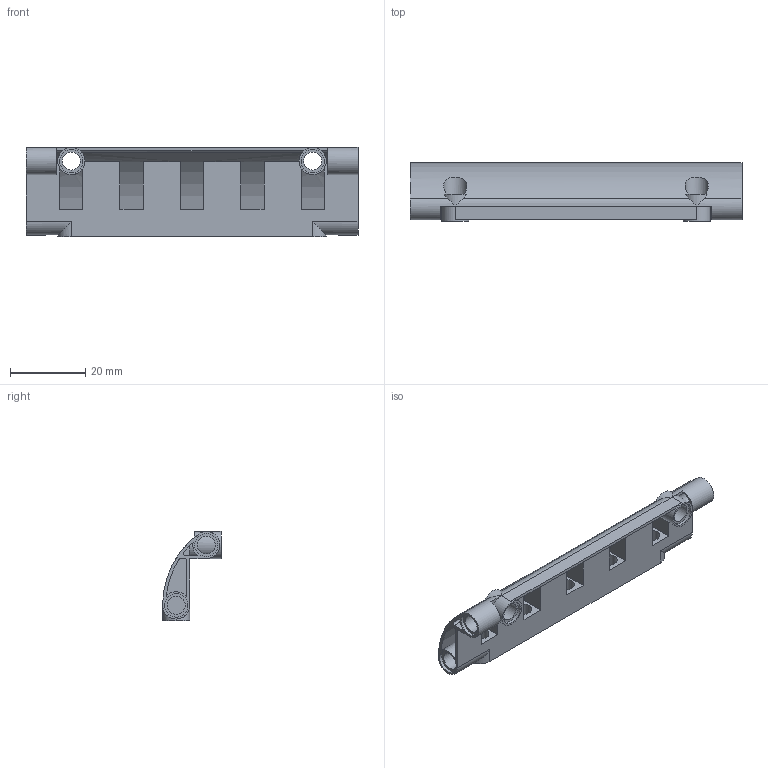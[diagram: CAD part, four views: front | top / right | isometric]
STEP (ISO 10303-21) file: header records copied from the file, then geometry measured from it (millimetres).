
FILE_DESCRIPTION(/* description */ ('Unknown'),/* implementation_level */ '2;1');
FILE_NAME(/* name */ 'Ye_4540613_AVV',/* time_stamp */ '2025-07-22T00:10:04+02:00',/* author */ ('Unknown'),/* organization */ ('Unknown'),/* preprocessor_version */ 'ST-DEVELOPER v19.4',/* originating_system */ 'Solid Edge',/* authorisation */ 'Unknown');
FILE_SCHEMA (('AUTOMOTIVE_DESIGN {1 0 10303 214 3 1 1}'));
Length unit declared in the file: millimetre
Products named in the file (1): Ye_4540613_AVV
Bounding box: 88 x 15.6 x 23.6 mm (x, y, z)
Volume: 5182.3 mm3; surface area: 10719.4 mm2
Topology: 1 solids, 1 shells, 180 faces, 444 edges, 287 vertices
Faces by surface type: cylinder 86, plane 86, torus 8
Full cylindrical faces by diameter (mm): 4.703 x2, 4.8 x9, 6.103 x4, 6.2 x11, 7.2 x2
Entity records: 5327 total; most frequent: CARTESIAN_POINT 1030, DIRECTION 923, ORIENTED_EDGE 818, EDGE_CURVE 409, AXIS2_PLACEMENT_3D 361, VERTEX_POINT 280, EDGE_LOOP 251, FACE_BOUND 251
